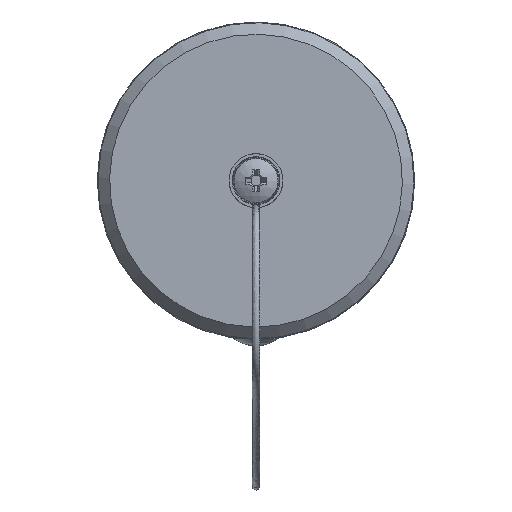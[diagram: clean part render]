
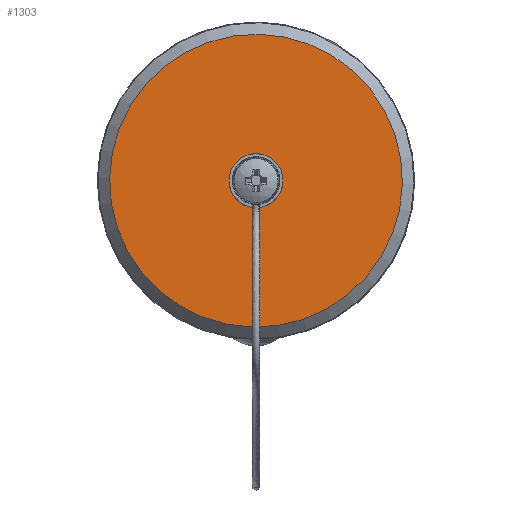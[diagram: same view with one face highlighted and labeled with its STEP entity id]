
A CAD part, top view. The second image highlights one B-rep face of the part: STEP entity #1303.
In plain terms, the highlighted planar face has unit normal (0, 0, 1).
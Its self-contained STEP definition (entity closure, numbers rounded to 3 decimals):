
#62 = ORIENTED_EDGE ( 'NONE', *, *, #222, .F. ) ;
#211 = CIRCLE ( 'NONE', #2869, 3.5 ) ;
#222 = EDGE_CURVE ( 'NONE', #4716, #4716, #977, .T. ) ;
#307 = VERTEX_POINT ( 'NONE', #4343 ) ;
#665 = CARTESIAN_POINT ( 'NONE',  ( -0.302, -3.595, 45.5 ) ) ;
#700 = DIRECTION ( 'NONE',  ( 0., 0., -1. ) ) ;
#947 = B_SPLINE_CURVE_WITH_KNOTS ( 'NONE', 3,
 ( #3659, #4767, #1782, #2889, #3649, #2871, #4817, #665, #4002, #1064 ),
 .UNSPECIFIED., .F., .F.,
 ( 4, 2, 2, 2, 4 ),
 ( 0., 0.001, 0.001, 0.001, 0.001 ),
 .UNSPECIFIED. ) ;
#977 = CIRCLE ( 'NONE', #4702, 19. ) ;
#1064 = CARTESIAN_POINT ( 'NONE',  ( -0.41, -3.476, 45.5 ) ) ;
#1303 = ADVANCED_FACE ( 'NONE', ( #2979, #1847 ), #2928, .F. ) ;
#1319 = DIRECTION ( 'NONE',  ( 0.779, 0.627, 0. ) ) ;
#1468 = ORIENTED_EDGE ( 'NONE', *, *, #3452, .T. ) ;
#1704 = DIRECTION ( 'NONE',  ( 0., 0., -1. ) ) ;
#1782 = CARTESIAN_POINT ( 'NONE',  ( 0.302, -3.596, 45.5 ) ) ;
#1847 = FACE_OUTER_BOUND ( 'NONE', #3000, .T. ) ;
#2015 = DIRECTION ( 'NONE',  ( 0.141, 0.99, 0. ) ) ;
#2016 = VERTEX_POINT ( 'NONE', #3034 ) ;
#2211 = DIRECTION ( 'NONE',  ( 0., -1., 0. ) ) ;
#2518 = CARTESIAN_POINT ( 'NONE',  ( 0., 0., 45.5 ) ) ;
#2715 = DIRECTION ( 'NONE',  ( 0., 0., -1. ) ) ;
#2802 = CARTESIAN_POINT ( 'NONE',  ( 0., 0., 45.5 ) ) ;
#2869 = AXIS2_PLACEMENT_3D ( 'NONE', #4621, #2715, #2015 ) ;
#2871 = CARTESIAN_POINT ( 'NONE',  ( -0.08, -3.69, 45.5 ) ) ;
#2889 = CARTESIAN_POINT ( 'NONE',  ( 0.159, -3.669, 45.5 ) ) ;
#2928 = PLANE ( 'NONE',  #4549 ) ;
#2979 = FACE_BOUND ( 'NONE', #3167, .T. ) ;
#3000 = EDGE_LOOP ( 'NONE', ( #62 ) ) ;
#3034 = CARTESIAN_POINT ( 'NONE',  ( -0.41, -3.476, 45.5 ) ) ;
#3167 = EDGE_LOOP ( 'NONE', ( #3698, #1468 ) ) ;
#3171 = CARTESIAN_POINT ( 'NONE',  ( 14.807, 11.906, 45.5 ) ) ;
#3452 = EDGE_CURVE ( 'NONE', #307, #2016, #947, .T. ) ;
#3649 = CARTESIAN_POINT ( 'NONE',  ( 0.079, -3.688, 45.5 ) ) ;
#3659 = CARTESIAN_POINT ( 'NONE',  ( 0.409, -3.476, 45.5 ) ) ;
#3698 = ORIENTED_EDGE ( 'NONE', *, *, #4730, .T. ) ;
#4002 = CARTESIAN_POINT ( 'NONE',  ( -0.364, -3.541, 45.5 ) ) ;
#4343 = CARTESIAN_POINT ( 'NONE',  ( 0.409, -3.476, 45.5 ) ) ;
#4549 = AXIS2_PLACEMENT_3D ( 'NONE', #2518, #700, #2211 ) ;
#4621 = CARTESIAN_POINT ( 'NONE',  ( 0., 0., 45.5 ) ) ;
#4702 = AXIS2_PLACEMENT_3D ( 'NONE', #2802, #1704, #1319 ) ;
#4716 = VERTEX_POINT ( 'NONE', #3171 ) ;
#4730 = EDGE_CURVE ( 'NONE', #2016, #307, #211, .T. ) ;
#4767 = CARTESIAN_POINT ( 'NONE',  ( 0.364, -3.542, 45.5 ) ) ;
#4817 = CARTESIAN_POINT ( 'NONE',  ( -0.16, -3.67, 45.5 ) ) ;
